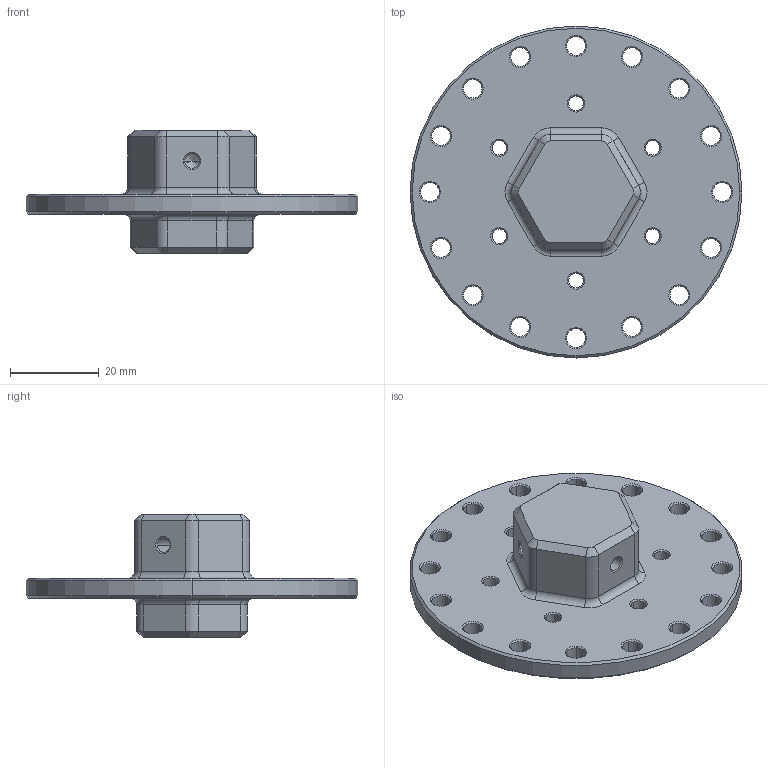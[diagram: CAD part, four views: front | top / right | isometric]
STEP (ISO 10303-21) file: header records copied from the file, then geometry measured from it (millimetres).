
FILE_DESCRIPTION((''),'2;1');
FILE_NAME('JXB-PR60-PAN','2019-12-03T',('Win10'),(''),'PRO/ENGINEER BY PARAMETRIC TECHNOLOGY CORPORATION, 2010280','PRO/ENGINEER BY PARAMETRIC TECHNOLOGY CORPORATION, 2010280','');
FILE_SCHEMA(('AUTOMOTIVE_DESIGN_CC2 { 1 2 10303 214 -1 1 5 2 }'));
Length unit declared in the file: millimetre
Products named in the file (1): JXB-PR60-PAN
Bounding box: 75 x 75 x 28 mm (x, y, z)
Volume: 31542.3 mm3; surface area: 12371.3 mm2
Topology: 1 solids, 1 shells, 232 faces, 532 edges, 301 vertices
Faces by surface type: cone 116, cylinder 76, plane 28, torus 12
Entity records: 8127 total; most frequent: DIRECTION 1264, CARTESIAN_POINT 1059, ORIENTED_EDGE 1052, PRESENTATION_STYLE_ASSIGNMENT 527, STYLED_ITEM 527, CURVE_STYLE 526, EDGE_CURVE 526, AXIS2_PLACEMENT_3D 506
